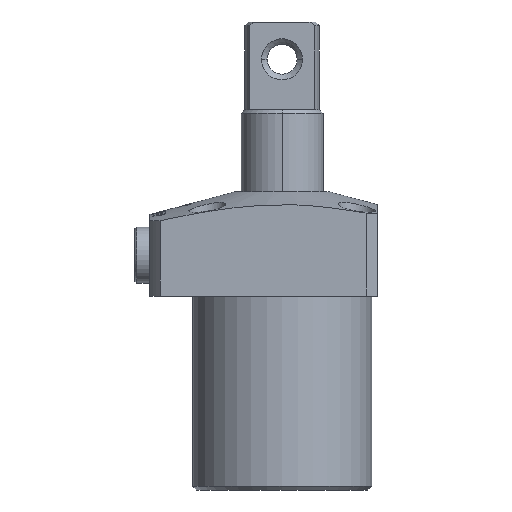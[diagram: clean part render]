
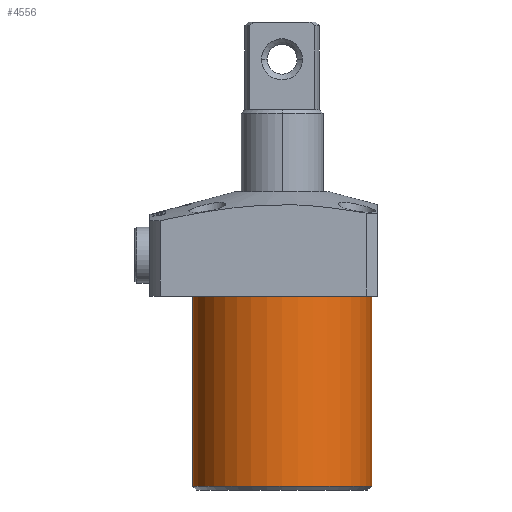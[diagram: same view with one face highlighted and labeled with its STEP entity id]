
A CAD part, front view. The second image highlights one B-rep face of the part: STEP entity #4556.
In plain terms, the highlighted cylindrical face has radius 24 mm (diameter 48 mm), a partial arc.
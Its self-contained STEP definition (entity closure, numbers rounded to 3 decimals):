
#528 = VERTEX_POINT ( 'NONE', #13020 ) ;
#582 = ORIENTED_EDGE ( 'NONE', *, *, #11602, .F. ) ;
#1219 = AXIS2_PLACEMENT_3D ( 'NONE', #13997, #6872, #15183 ) ;
#1638 = DIRECTION ( 'NONE',  ( 0., 0., 1. ) ) ;
#2001 = LINE ( 'NONE', #9893, #5167 ) ;
#2265 = CYLINDRICAL_SURFACE ( 'NONE', #9434, 24. ) ;
#3805 = ORIENTED_EDGE ( 'NONE', *, *, #14843, .T. ) ;
#3831 = CARTESIAN_POINT ( 'NONE',  ( 0., 0., 0. ) ) ;
#3880 = ORIENTED_EDGE ( 'NONE', *, *, #4368, .T. ) ;
#4284 = CIRCLE ( 'NONE', #1219, 24. ) ;
#4368 = EDGE_CURVE ( 'NONE', #11618, #13890, #10794, .T. ) ;
#4556 = ADVANCED_FACE ( 'NONE', ( #8538 ), #2265, .T. ) ;
#4769 = DIRECTION ( 'NONE',  ( 0., 0., 1. ) ) ;
#4841 = EDGE_CURVE ( 'NONE', #11524, #11618, #4284, .T. ) ;
#5044 = DIRECTION ( 'NONE',  ( -1., 0., 0. ) ) ;
#5167 = VECTOR ( 'NONE', #1638, 1000. ) ;
#5232 = CARTESIAN_POINT ( 'NONE',  ( 24., 0., -51. ) ) ;
#6388 = CIRCLE ( 'NONE', #7017, 24. ) ;
#6566 = DIRECTION ( 'NONE',  ( 1., 0., 0. ) ) ;
#6872 = DIRECTION ( 'NONE',  ( 0., 0., 1. ) ) ;
#7017 = AXIS2_PLACEMENT_3D ( 'NONE', #3831, #12128, #5044 ) ;
#7265 = VECTOR ( 'NONE', #4769, 1000. ) ;
#8538 = FACE_OUTER_BOUND ( 'NONE', #12608, .T. ) ;
#9434 = AXIS2_PLACEMENT_3D ( 'NONE', #13668, #12464, #6566 ) ;
#9893 = CARTESIAN_POINT ( 'NONE',  ( -24., 0., -52. ) ) ;
#10685 = CARTESIAN_POINT ( 'NONE',  ( 24., 0., 0. ) ) ;
#10794 = LINE ( 'NONE', #11867, #7265 ) ;
#10811 = CARTESIAN_POINT ( 'NONE',  ( -24., 0., -51. ) ) ;
#11524 = VERTEX_POINT ( 'NONE', #10811 ) ;
#11602 = EDGE_CURVE ( 'NONE', #11524, #528, #2001, .T. ) ;
#11618 = VERTEX_POINT ( 'NONE', #5232 ) ;
#11867 = CARTESIAN_POINT ( 'NONE',  ( 24., 0., -52. ) ) ;
#12128 = DIRECTION ( 'NONE',  ( 0., 0., -1. ) ) ;
#12464 = DIRECTION ( 'NONE',  ( 0., 0., 1. ) ) ;
#12536 = ORIENTED_EDGE ( 'NONE', *, *, #4841, .T. ) ;
#12608 = EDGE_LOOP ( 'NONE', ( #582, #12536, #3880, #3805 ) ) ;
#13020 = CARTESIAN_POINT ( 'NONE',  ( -24., 0., 0. ) ) ;
#13668 = CARTESIAN_POINT ( 'NONE',  ( 0., 0., -52. ) ) ;
#13890 = VERTEX_POINT ( 'NONE', #10685 ) ;
#13997 = CARTESIAN_POINT ( 'NONE',  ( 0., 0., -51. ) ) ;
#14843 = EDGE_CURVE ( 'NONE', #13890, #528, #6388, .T. ) ;
#15183 = DIRECTION ( 'NONE',  ( -1., 0., 0. ) ) ;
